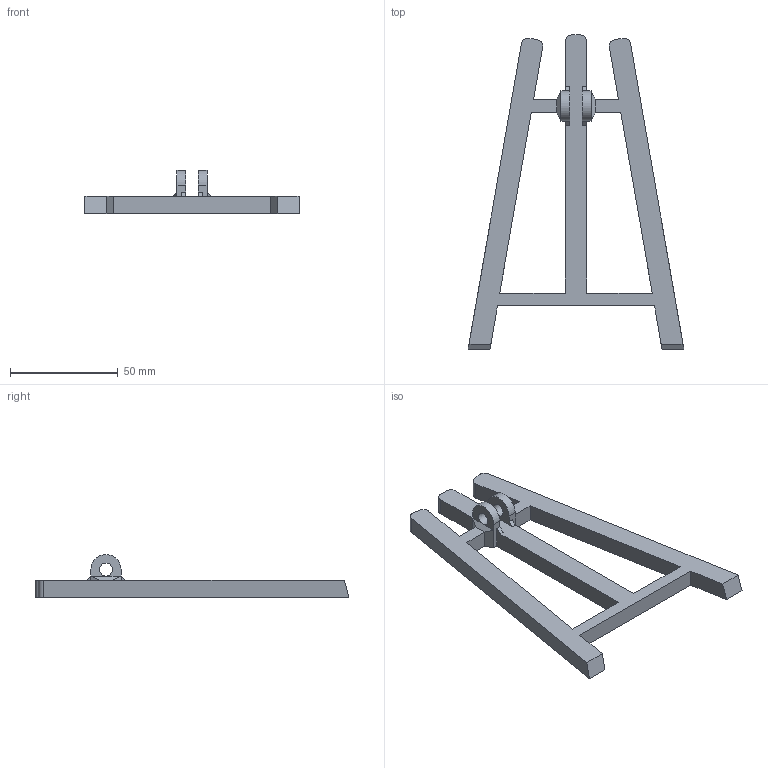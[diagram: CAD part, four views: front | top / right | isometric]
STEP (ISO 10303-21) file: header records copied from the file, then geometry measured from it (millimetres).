
FILE_DESCRIPTION(/* description */ ('','CAx-IF Rec.Pracs.---Representation and Presentation of Product Manufacturing Information (PMI)---4.0---2014-10-13'),/* implementation_level */ '2;1');
FILE_NAME(/* name */ 'Staffelei.step',/* time_stamp */ '2025-01-07T21:35:46+01:00',/* author */ (''),/* organization */ (''),/* preprocessor_version */ 'ST-DEVELOPER v20',/* originating_system */ 'Autodesk Translation Framework v13.20.0.188',/* authorisation */ '');
FILE_SCHEMA (('AP242_MANAGED_MODEL_BASED_3D_ENGINEERING_MIM_LF { 1 0 10303 442 1 1 4 }'));
Length unit declared in the file: millimetre
Products named in the file (1): 02_Staffelei
Bounding box: 100.3 x 146 x 20 mm (x, y, z)
Volume: 39019.3 mm3; surface area: 18462.7 mm2
Topology: 1 solids, 1 shells, 64 faces, 182 edges, 118 vertices
Faces by surface type: plane 54, cylinder 10
Full cylindrical faces by diameter (mm): 6 x2
Entity records: 2104 total; most frequent: CARTESIAN_POINT 365, ORIENTED_EDGE 364, DIRECTION 334, EDGE_CURVE 182, LINE 160, VECTOR 160, VERTEX_POINT 118, AXIS2_PLACEMENT_3D 87
